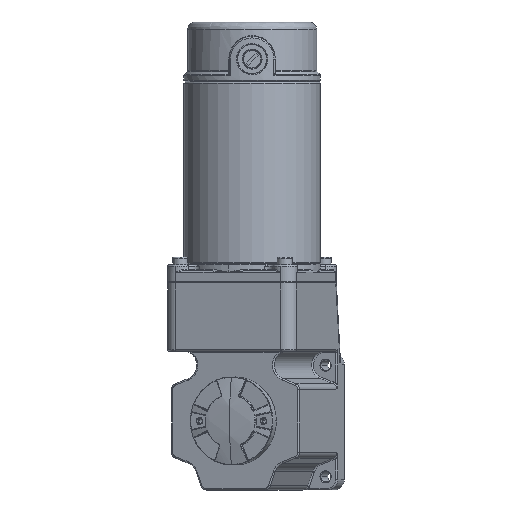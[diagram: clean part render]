
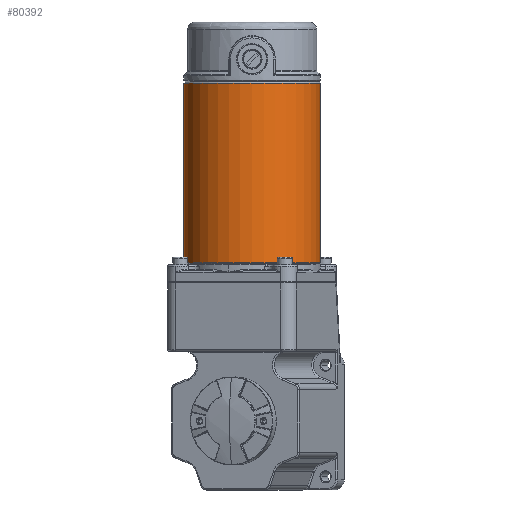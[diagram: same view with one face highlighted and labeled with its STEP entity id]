
A CAD part, left-side view. The second image highlights one B-rep face of the part: STEP entity #80392.
In plain terms, the highlighted cylindrical face has radius 45 mm (diameter 90 mm), a partial arc.
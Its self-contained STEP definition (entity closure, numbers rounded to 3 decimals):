
#1985 = CARTESIAN_POINT ( 'NONE',  ( -7.759, 0.828, 0. ) ) ;
#2665 = ORIENTED_EDGE ( 'NONE', *, *, #49115, .T. ) ;
#4206 = ORIENTED_EDGE ( 'NONE', *, *, #90284, .T. ) ;
#14215 = CIRCLE ( 'NONE', #71889, 45. ) ;
#14300 = CARTESIAN_POINT ( 'NONE',  ( -7.759, 0.828, -45. ) ) ;
#15183 = CARTESIAN_POINT ( 'NONE',  ( -7.759, 0., 0. ) ) ;
#18237 = LINE ( 'NONE', #40902, #73575 ) ;
#24939 = DIRECTION ( 'NONE',  ( 0., 1., 0. ) ) ;
#25644 = AXIS2_PLACEMENT_3D ( 'NONE', #25787, #56212, #57240 ) ;
#25787 = CARTESIAN_POINT ( 'NONE',  ( -7.759, 119.172, 0. ) ) ;
#30073 = VERTEX_POINT ( 'NONE', #14300 ) ;
#31015 = CIRCLE ( 'NONE', #60629, 45. ) ;
#38878 = EDGE_CURVE ( 'NONE', #30073, #72520, #73374, .T. ) ;
#38885 = DIRECTION ( 'NONE',  ( 0., 1., 0. ) ) ;
#40902 = CARTESIAN_POINT ( 'NONE',  ( -7.759, 0., 45. ) ) ;
#44658 = DIRECTION ( 'NONE',  ( 0., 1., 0. ) ) ;
#45513 = AXIS2_PLACEMENT_3D ( 'NONE', #15183, #38885, #55387 ) ;
#46474 = VERTEX_POINT ( 'NONE', #60409 ) ;
#49115 = EDGE_CURVE ( 'NONE', #88017, #95998, #31015, .T. ) ;
#50879 = DIRECTION ( 'NONE',  ( 0., 1., 0. ) ) ;
#52731 = CARTESIAN_POINT ( 'NONE',  ( -7.759, 119.172, -45. ) ) ;
#55387 = DIRECTION ( 'NONE',  ( 0., 0., 1. ) ) ;
#56212 = DIRECTION ( 'NONE',  ( 0., -1., 0. ) ) ;
#56420 = VECTOR ( 'NONE', #57367, 1000. ) ;
#57240 = DIRECTION ( 'NONE',  ( 0., 0., 1. ) ) ;
#57367 = DIRECTION ( 'NONE',  ( 0., 1., 0. ) ) ;
#60409 = CARTESIAN_POINT ( 'NONE',  ( -7.759, 119.172, 45. ) ) ;
#60629 = AXIS2_PLACEMENT_3D ( 'NONE', #1985, #50879, #96325 ) ;
#61998 = EDGE_LOOP ( 'NONE', ( #77848, #4206, #2665, #98789, #66568 ) ) ;
#64582 = CARTESIAN_POINT ( 'NONE',  ( -7.759, 0., -45. ) ) ;
#66568 = ORIENTED_EDGE ( 'NONE', *, *, #86617, .T. ) ;
#71889 = AXIS2_PLACEMENT_3D ( 'NONE', #92660, #44658, #76173 ) ;
#72520 = VERTEX_POINT ( 'NONE', #52731 ) ;
#73374 = LINE ( 'NONE', #64582, #56420 ) ;
#73575 = VECTOR ( 'NONE', #24939, 1000. ) ;
#76173 = DIRECTION ( 'NONE',  ( 0., 0., 1. ) ) ;
#77848 = ORIENTED_EDGE ( 'NONE', *, *, #38878, .F. ) ;
#79357 = CARTESIAN_POINT ( 'NONE',  ( -7.759, 0.828, 45. ) ) ;
#79808 = EDGE_CURVE ( 'NONE', #95998, #46474, #18237, .T. ) ;
#80392 = ADVANCED_FACE ( 'NONE', ( #101363 ), #86345, .T. ) ;
#82777 = CARTESIAN_POINT ( 'NONE',  ( -52.759, 0.828, 0. ) ) ;
#86345 = CYLINDRICAL_SURFACE ( 'NONE', #45513, 45. ) ;
#86617 = EDGE_CURVE ( 'NONE', #46474, #72520, #101447, .T. ) ;
#88017 = VERTEX_POINT ( 'NONE', #82777 ) ;
#90284 = EDGE_CURVE ( 'NONE', #30073, #88017, #14215, .T. ) ;
#92660 = CARTESIAN_POINT ( 'NONE',  ( -7.759, 0.828, 0. ) ) ;
#95998 = VERTEX_POINT ( 'NONE', #79357 ) ;
#96325 = DIRECTION ( 'NONE',  ( 0., 0., 1. ) ) ;
#98789 = ORIENTED_EDGE ( 'NONE', *, *, #79808, .T. ) ;
#101363 = FACE_OUTER_BOUND ( 'NONE', #61998, .T. ) ;
#101447 = CIRCLE ( 'NONE', #25644, 45. ) ;
